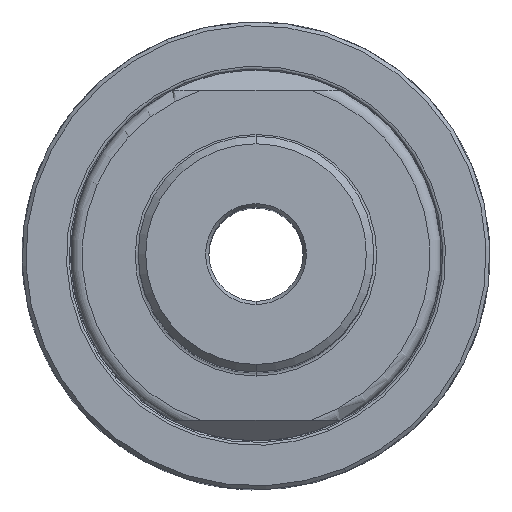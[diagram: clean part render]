
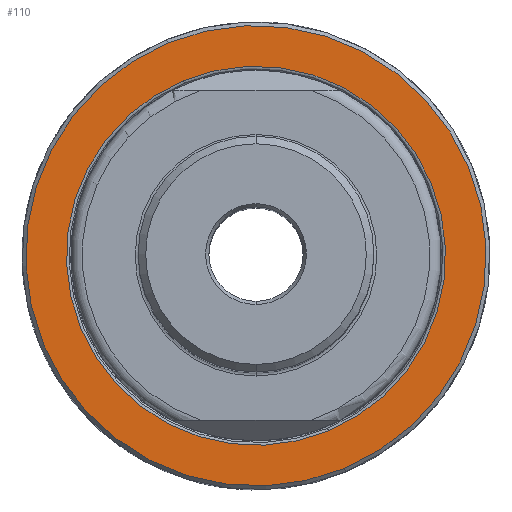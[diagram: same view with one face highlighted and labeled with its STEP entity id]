
A CAD part, top view. The second image highlights one B-rep face of the part: STEP entity #110.
In plain terms, the highlighted planar face has unit normal (0, 0, 1).
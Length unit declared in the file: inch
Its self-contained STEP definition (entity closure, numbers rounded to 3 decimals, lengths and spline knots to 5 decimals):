
#110 = ADVANCED_FACE ( 'NONE', ( #14435, #12991 ), #7158, .F. ) ;
#317 = AXIS2_PLACEMENT_3D ( 'NONE', #6414, #1603, #12597 ) ;
#412 = CARTESIAN_POINT ( 'NONE',  ( 0., 0., -4.99606 ) ) ;
#489 = ORIENTED_EDGE ( 'NONE', *, *, #5345, .F. ) ;
#846 = VERTEX_POINT ( 'NONE', #10209 ) ;
#889 = CIRCLE ( 'NONE', #1132, 1.00472 ) ;
#1132 = AXIS2_PLACEMENT_3D ( 'NONE', #412, #15006, #13624 ) ;
#1603 = DIRECTION ( 'NONE',  ( 0., 0., 1. ) ) ;
#2036 = ORIENTED_EDGE ( 'NONE', *, *, #7832, .F. ) ;
#2557 = CARTESIAN_POINT ( 'NONE',  ( -0.38486, 0.92809, -4.99606 ) ) ;
#3633 = CARTESIAN_POINT ( 'NONE',  ( 0., 0., -4.99606 ) ) ;
#4360 = AXIS2_PLACEMENT_3D ( 'NONE', #3633, #11250, #12221 ) ;
#4872 = EDGE_CURVE ( 'NONE', #846, #15474, #10240, .T. ) ;
#5345 = EDGE_CURVE ( 'NONE', #15474, #846, #10002, .T. ) ;
#6414 = CARTESIAN_POINT ( 'NONE',  ( 0., 0., -4.99606 ) ) ;
#6689 = AXIS2_PLACEMENT_3D ( 'NONE', #12603, #9022, #11422 ) ;
#6761 = EDGE_LOOP ( 'NONE', ( #2036, #7757 ) ) ;
#7158 = PLANE ( 'NONE',  #9598 ) ;
#7757 = ORIENTED_EDGE ( 'NONE', *, *, #14903, .F. ) ;
#7832 = EDGE_CURVE ( 'NONE', #10295, #9306, #889, .T. ) ;
#8483 = ORIENTED_EDGE ( 'NONE', *, *, #4872, .F. ) ;
#9022 = DIRECTION ( 'NONE',  ( 0., 0., -1. ) ) ;
#9306 = VERTEX_POINT ( 'NONE', #2557 ) ;
#9575 = DIRECTION ( 'NONE',  ( 0., 0., -1. ) ) ;
#9598 = AXIS2_PLACEMENT_3D ( 'NONE', #15408, #9575, #9662 ) ;
#9662 = DIRECTION ( 'NONE',  ( -0.383, 0.924, 0. ) ) ;
#10002 = CIRCLE ( 'NONE', #4360, 1.22016 ) ;
#10209 = CARTESIAN_POINT ( 'NONE',  ( -0.46738, 1.12709, -4.99606 ) ) ;
#10240 = CIRCLE ( 'NONE', #6689, 1.22016 ) ;
#10295 = VERTEX_POINT ( 'NONE', #14490 ) ;
#10392 = EDGE_LOOP ( 'NONE', ( #8483, #489 ) ) ;
#10853 = CIRCLE ( 'NONE', #317, 1.00472 ) ;
#11250 = DIRECTION ( 'NONE',  ( 0., 0., -1. ) ) ;
#11422 = DIRECTION ( 'NONE',  ( -0.383, 0.924, 0. ) ) ;
#12221 = DIRECTION ( 'NONE',  ( -0.383, 0.924, 0. ) ) ;
#12597 = DIRECTION ( 'NONE',  ( 0.383, -0.924, 0. ) ) ;
#12603 = CARTESIAN_POINT ( 'NONE',  ( 0., 0., -4.99606 ) ) ;
#12991 = FACE_OUTER_BOUND ( 'NONE', #10392, .T. ) ;
#13624 = DIRECTION ( 'NONE',  ( 0.383, -0.924, 0. ) ) ;
#14232 = CARTESIAN_POINT ( 'NONE',  ( 0.46738, -1.12709, -4.99606 ) ) ;
#14435 = FACE_BOUND ( 'NONE', #6761, .T. ) ;
#14490 = CARTESIAN_POINT ( 'NONE',  ( 0.38486, -0.92809, -4.99606 ) ) ;
#14903 = EDGE_CURVE ( 'NONE', #9306, #10295, #10853, .T. ) ;
#15006 = DIRECTION ( 'NONE',  ( 0., 0., 1. ) ) ;
#15408 = CARTESIAN_POINT ( 'NONE',  ( 0., 0., -4.99606 ) ) ;
#15474 = VERTEX_POINT ( 'NONE', #14232 ) ;
